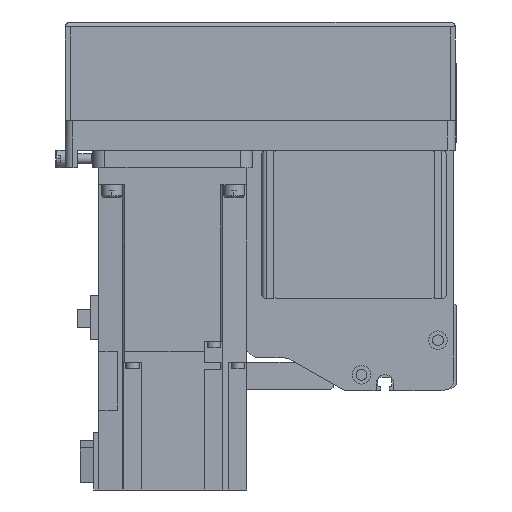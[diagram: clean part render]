
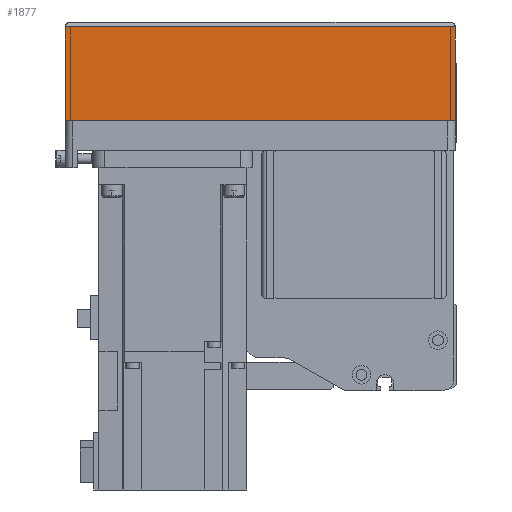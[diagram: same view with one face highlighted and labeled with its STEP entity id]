
A CAD part, left-side view. The second image highlights one B-rep face of the part: STEP entity #1877.
In plain terms, the highlighted planar face has unit normal (-1, 0, 0) as drawn and (0, 1, 0) by its records, which use the part's own axes.
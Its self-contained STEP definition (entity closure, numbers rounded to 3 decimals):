
#1877 = ADVANCED_FACE( '', ( #4336 ), #4337, .T. );
#4336 = FACE_OUTER_BOUND( '', #7468, .T. );
#4337 = PLANE( '', #7469 );
#7468 = EDGE_LOOP( '', ( #12819, #12820, #12821, #12822 ) );
#7469 = AXIS2_PLACEMENT_3D( '', #12823, #12824, #12825 );
#12819 = ORIENTED_EDGE( '', *, *, #19831, .F. );
#12820 = ORIENTED_EDGE( '', *, *, #18239, .F. );
#12821 = ORIENTED_EDGE( '', *, *, #19873, .T. );
#12822 = ORIENTED_EDGE( '', *, *, #19874, .T. );
#12823 = CARTESIAN_POINT( '', ( -158., 39., -50. ) );
#12824 = DIRECTION( '', ( 0., 1., 0. ) );
#12825 = DIRECTION( '', ( 0., 0., 1. ) );
#18239 = EDGE_CURVE( '', #21800, #21803, #21804, .T. );
#19831 = EDGE_CURVE( '', #21803, #24421, #24422, .T. );
#19873 = EDGE_CURVE( '', #21800, #24483, #24484, .T. );
#19874 = EDGE_CURVE( '', #24483, #24421, #24485, .T. );
#21800 = VERTEX_POINT( '', #26935 );
#21803 = VERTEX_POINT( '', #26938 );
#21804 = LINE( '', #26939, #26940 );
#24421 = VERTEX_POINT( '', #30613 );
#24422 = LINE( '', #30614, #30615 );
#24483 = VERTEX_POINT( '', #30725 );
#24484 = LINE( '', #30726, #30727 );
#24485 = LINE( '', #30728, #30729 );
#26935 = CARTESIAN_POINT( '', ( -158., 39., -50. ) );
#26938 = CARTESIAN_POINT( '', ( 0., 39., -50. ) );
#26939 = CARTESIAN_POINT( '', ( -158., 39., -50. ) );
#26940 = VECTOR( '', #33773, 1000. );
#30613 = CARTESIAN_POINT( '', ( 0., 39., -12.1 ) );
#30614 = CARTESIAN_POINT( '', ( 0., 39., -50. ) );
#30615 = VECTOR( '', #35852, 1000. );
#30725 = CARTESIAN_POINT( '', ( -158., 39., -12.1 ) );
#30726 = CARTESIAN_POINT( '', ( -158., 39., -50. ) );
#30727 = VECTOR( '', #35891, 1000. );
#30728 = CARTESIAN_POINT( '', ( -158., 39., -12.1 ) );
#30729 = VECTOR( '', #35892, 1000. );
#33773 = DIRECTION( '', ( 1., 0., 0. ) );
#35852 = DIRECTION( '', ( 0., 0., 1. ) );
#35891 = DIRECTION( '', ( 0., 0., 1. ) );
#35892 = DIRECTION( '', ( 1., 0., 0. ) );
